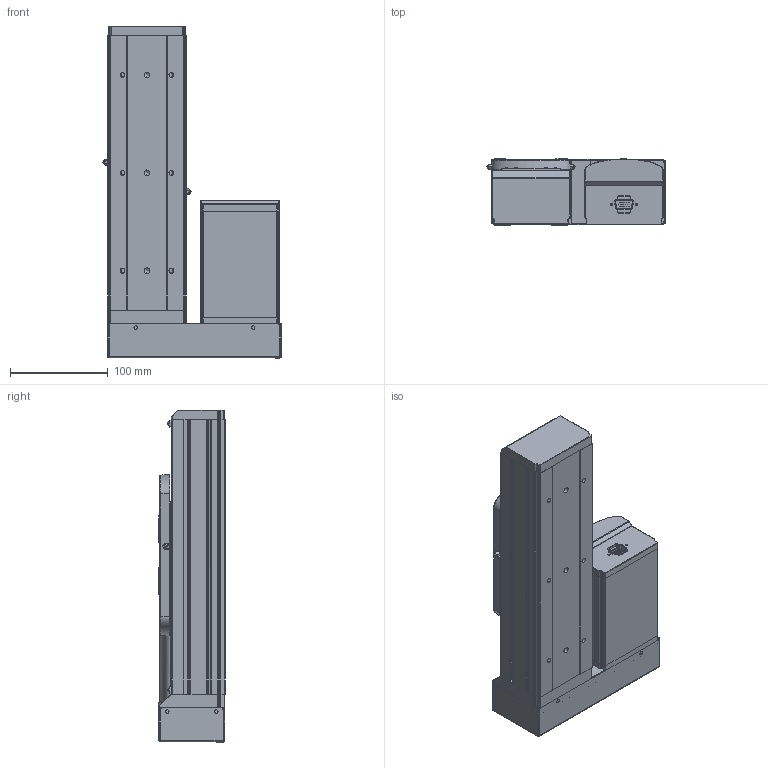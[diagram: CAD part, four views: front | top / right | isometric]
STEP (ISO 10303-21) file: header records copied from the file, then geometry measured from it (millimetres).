
FILE_DESCRIPTION (( 'STEP AP203' ), '1' );
FILE_NAME ('GERC80-100-FLXD.STEP', '2020-05-21T10:38:20', ( '' ), ( '' ), 'SwSTEP 2.0', 'SolidWorks 2019', '' );
FILE_SCHEMA (( 'CONFIG_CONTROL_DESIGN' ));
Length unit declared in the file: millimetre
Products named in the file (3): Group1^GERC80-100-FLXD_defeature_GMT; Group2^GERC80-100-FLXD_defeature_GMT; GERC80-100-FLXD
Assembly tree (2 placements, depth 2):
  GERC80-100-FLXD
    Group1^GERC80-100-FLXD_defeature_GMT
    Group2^GERC80-100-FLXD_defeature_GMT
Bounding box: 182 x 67.5 x 339 mm (x, y, z)
Volume: 1539278.9 mm3; surface area: 345697.9 mm2
Topology: 4 solids, 4 shells, 1499 faces, 3931 edges, 2438 vertices
Faces by surface type: plane 765, cylinder 443, bspline 126, cone 113, sphere 42, torus 10
Entity records: 53498 total; most frequent: CARTESIAN_POINT 16713, ORIENTED_EDGE 7798, DIRECTION 7590, EDGE_CURVE 3899, AXIS2_PLACEMENT_3D 2665, VERTEX_POINT 2432, LINE 2260, VECTOR 2260
